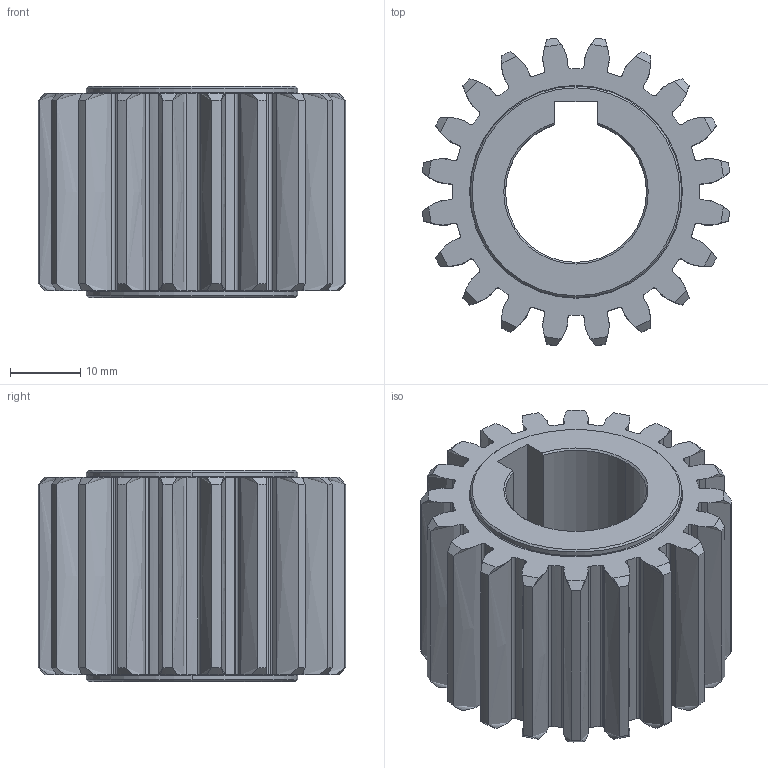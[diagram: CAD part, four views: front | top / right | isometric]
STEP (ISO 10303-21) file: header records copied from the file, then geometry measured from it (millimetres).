
FILE_DESCRIPTION (( 'STEP AP214' ), '1' );
FILE_NAME ('1SG__S020020S.STEP', '2021-08-03T07:26:36', ( '' ), ( '' ), 'SwSTEP 2.0', 'SolidWorks 2021', '' );
FILE_SCHEMA (( 'AUTOMOTIVE_DESIGN' ));
Length unit declared in the file: millimetre
Products named in the file (1): 1SG__S020020S
Bounding box: 43.65 x 43.65 x 30 mm (x, y, z)
Volume: 25777 mm3; surface area: 11119.7 mm2
Topology: 1 solids, 1 shells, 218 faces, 666 edges, 452 vertices
Faces by surface type: cylinder 77, bspline 60, cone 50, plane 27, torus 4
Entity records: 12532 total; most frequent: CARTESIAN_POINT 6769, ORIENTED_EDGE 1332, DIRECTION 1068, EDGE_CURVE 666, VERTEX_POINT 452, AXIS2_PLACEMENT_3D 407, VECTOR 254, LINE 254
